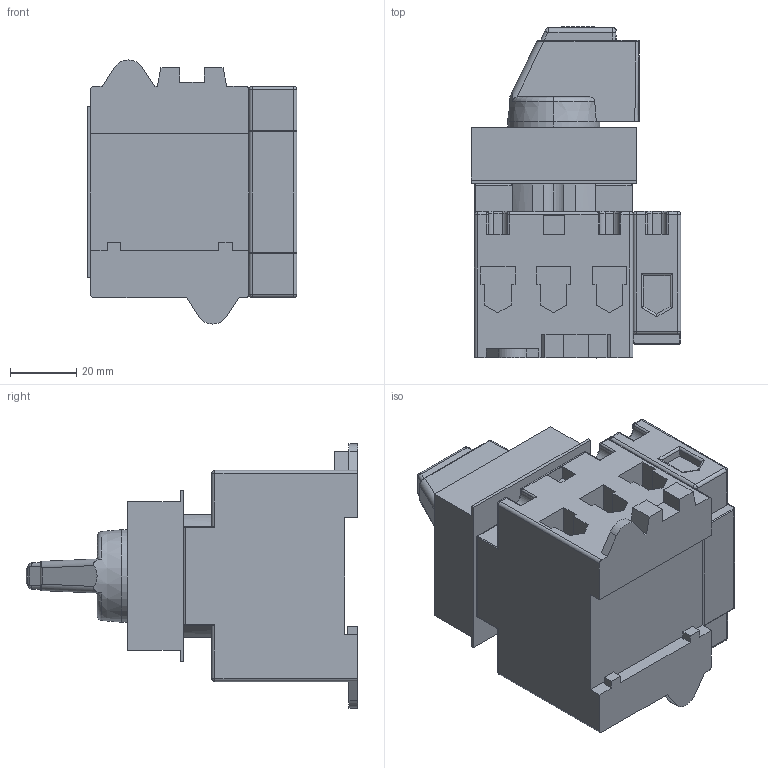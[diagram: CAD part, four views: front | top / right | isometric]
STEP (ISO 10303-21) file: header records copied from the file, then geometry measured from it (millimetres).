
FILE_DESCRIPTION (( 'STEP AP203' ), '1' );
FILE_NAME ('LTS63_80 SMAH1 A4.STEP', '2014-05-12T06:27:39', ( '' ), ( '' ), 'SwSTEP 2.0', 'SolidWorks 2014', '' );
FILE_SCHEMA (( 'CONFIG_CONTROL_DESIGN' ));
Length unit declared in the file: millimetre
Products named in the file (4): LTS63_80 SMAH1 A4; LTS63 VZV A3_Schaltkörper; SV1_48x48_smah1; 4. Pol LTS
Assembly tree (3 placements, depth 2):
  LTS63_80 SMAH1 A4
    LTS63 VZV A3_Schaltkörper
    SV1_48x48_smah1
    4. Pol LTS
Bounding box: 63.5 x 100.5 x 80 mm (x, y, z)
Volume: 218118.9 mm3; surface area: 44896.8 mm2
Topology: 3 solids, 3 shells, 487 faces, 1222 edges, 755 vertices
Faces by surface type: plane 242, cylinder 139, bspline 54, torus 21, cone 19, sphere 12
Entity records: 17490 total; most frequent: CARTESIAN_POINT 5871, ORIENTED_EDGE 2408, DIRECTION 2193, EDGE_CURVE 1204, VECTOR 767, LINE 767, VERTEX_POINT 755, AXIS2_PLACEMENT_3D 713
